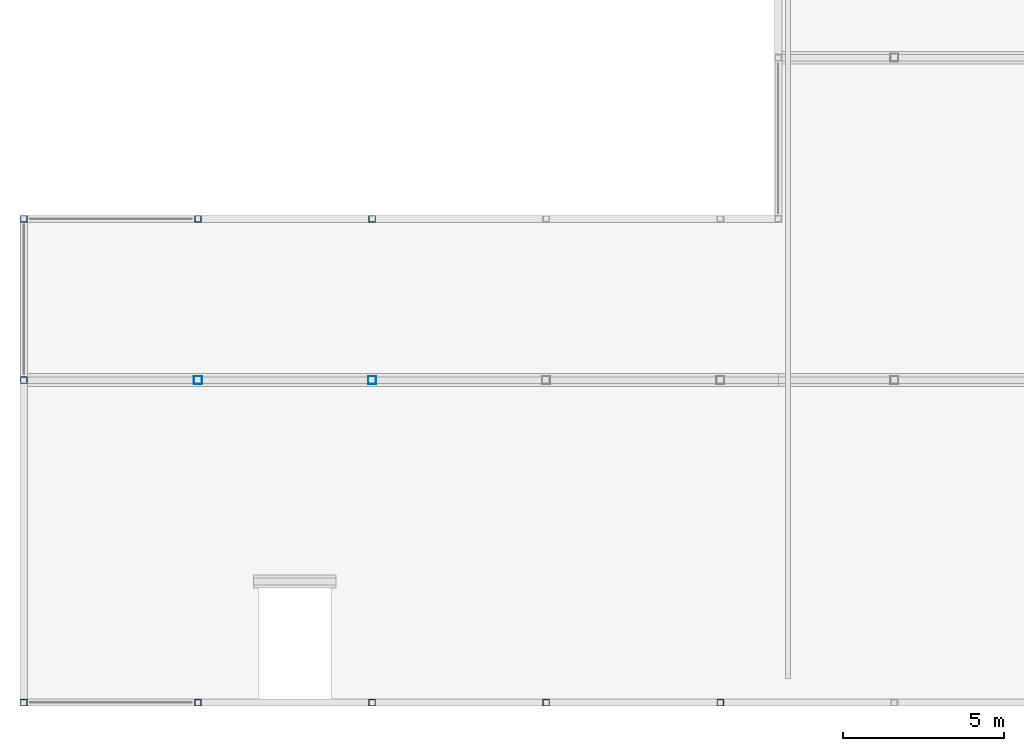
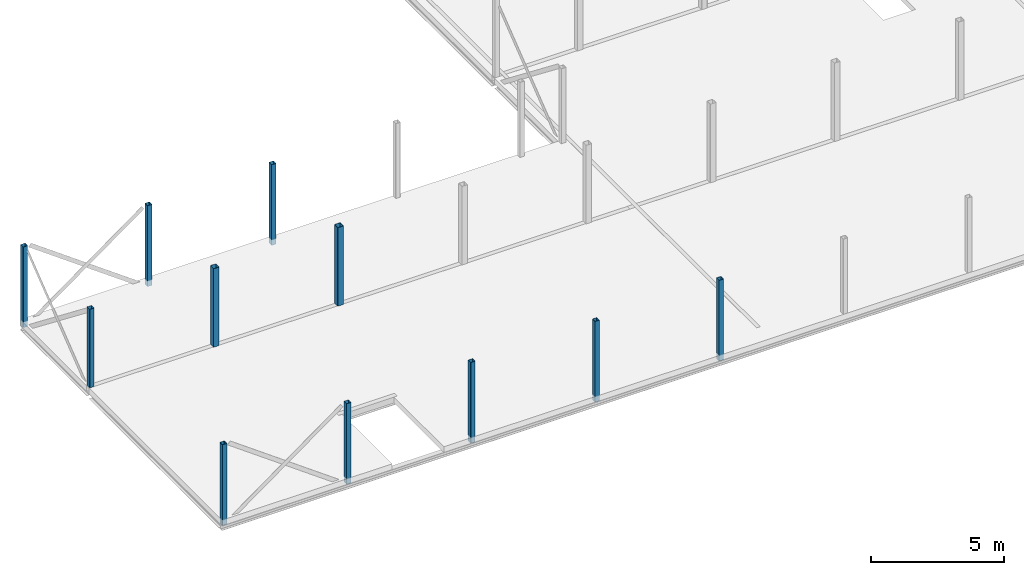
# One storey, part 1 of 7: 11 columns.
"""IFC2X3 building model written with IfcOpenShell, lengths in millimetres."""

from ifc_helpers import new_model, entity, si_unit, converted_unit, derived_unit, direction, frame, frame_2d, origin, place, context, subcontext, project, spatial, polyline, circle_curve, parameter, trimmed, segment, composite_curve, outline, extrude, source, transform, mapped, material, type_object, type_shapes, element, save


model = new_model("IFC2X3")

# Units and contexts
model_context = context("Model", 3, precision=0.01, world=origin(), true_north=direction((6.123031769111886e-17, 1.0)))
body_context = subcontext(model_context, "Body", "Model", "MODEL_VIEW")
ifc_project = project(units=[si_unit("LENGTHUNIT", "METRE", prefix="MILLI"), si_unit("AREAUNIT", "SQUARE_METRE"), si_unit("VOLUMEUNIT", "CUBIC_METRE"), converted_unit("PLANEANGLEUNIT", "DEGREE", entity("IfcPlaneAngleMeasure", 0.017453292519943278), si_unit("PLANEANGLEUNIT", "RADIAN"), dimensions=[0, 0, 0, 0, 0, 0, 0]), si_unit("MASSUNIT", "GRAM", prefix="KILO"), derived_unit("MASSDENSITYUNIT", [(si_unit("MASSUNIT", "GRAM", prefix="KILO"), 1), (si_unit("LENGTHUNIT", "METRE"), -3)]), derived_unit("IONCONCENTRATIONUNIT", [(si_unit("MASSUNIT", "GRAM", prefix="KILO"), 1), (si_unit("LENGTHUNIT", "METRE"), -3)]), derived_unit("MOMENTOFINERTIAUNIT", [(si_unit("LENGTHUNIT", "METRE"), 4)]), si_unit("TIMEUNIT", "SECOND"), si_unit("FREQUENCYUNIT", "HERTZ"), si_unit("THERMODYNAMICTEMPERATUREUNIT", "DEGREE_CELSIUS"), derived_unit("THERMALTRANSMITTANCEUNIT", [(si_unit("MASSUNIT", "GRAM", prefix="KILO"), 1), (si_unit("THERMODYNAMICTEMPERATUREUNIT", "KELVIN"), -1), (si_unit("TIMEUNIT", "SECOND"), -3)]), derived_unit("THERMALCONDUCTANCEUNIT", [(si_unit("MASSUNIT", "GRAM", prefix="KILO"), 1), (si_unit("THERMODYNAMICTEMPERATUREUNIT", "KELVIN"), -1), (si_unit("TIMEUNIT", "SECOND"), -3), (si_unit("LENGTHUNIT", "METRE"), 1)]), derived_unit("VOLUMETRICFLOWRATEUNIT", [(si_unit("LENGTHUNIT", "METRE", prefix="DECI"), 3), (si_unit("TIMEUNIT", "SECOND"), -1)]), derived_unit("MASSFLOWRATEUNIT", [(si_unit("MASSUNIT", "GRAM", prefix="KILO"), 1), (si_unit("TIMEUNIT", "SECOND"), -1)]), derived_unit("ROTATIONALFREQUENCYUNIT", [(si_unit("TIMEUNIT", "SECOND"), -1)]), si_unit("ELECTRICCURRENTUNIT", "AMPERE"), si_unit("ELECTRICVOLTAGEUNIT", "VOLT"), si_unit("POWERUNIT", "WATT"), si_unit("FORCEUNIT", "NEWTON", prefix="KILO"), si_unit("ILLUMINANCEUNIT", "LUX"), si_unit("LUMINOUSFLUXUNIT", "LUMEN"), si_unit("LUMINOUSINTENSITYUNIT", "CANDELA"), si_unit("ENERGYUNIT", "JOULE"), derived_unit("USERDEFINED", [(si_unit("MASSUNIT", "GRAM", prefix="KILO"), -1), (si_unit("LENGTHUNIT", "METRE"), -2), (si_unit("TIMEUNIT", "SECOND"), 3), (si_unit("LUMINOUSFLUXUNIT", "LUMEN"), 1)]), derived_unit("USERDEFINED", [(si_unit("MASSUNIT", "GRAM", prefix="KILO"), 1), (si_unit("TIMEUNIT", "SECOND"), -3), (si_unit("LENGTHUNIT", "METRE"), 3), (si_unit("ELECTRICCURRENTUNIT", "AMPERE"), -2)]), derived_unit("SOUNDPOWERUNIT", [(si_unit("MASSUNIT", "GRAM", prefix="KILO"), 1), (si_unit("TIMEUNIT", "SECOND"), -3), (si_unit("LENGTHUNIT", "METRE"), 2)]), derived_unit("SOUNDPRESSUREUNIT", [(si_unit("MASSUNIT", "GRAM", prefix="KILO"), 1), (si_unit("LENGTHUNIT", "METRE"), -1), (si_unit("TIMEUNIT", "SECOND"), -2)]), derived_unit("LINEARVELOCITYUNIT", [(si_unit("LENGTHUNIT", "METRE"), 1), (si_unit("TIMEUNIT", "SECOND"), -1)]), si_unit("PRESSUREUNIT", "PASCAL"), derived_unit("USERDEFINED", [(si_unit("MASSUNIT", "GRAM", prefix="KILO"), 1), (si_unit("LENGTHUNIT", "METRE"), -2), (si_unit("TIMEUNIT", "SECOND"), -2)]), derived_unit("LINEARFORCEUNIT", [(si_unit("MASSUNIT", "GRAM", prefix="KILO"), 1), (si_unit("TIMEUNIT", "SECOND"), -2)]), derived_unit("PLANARFORCEUNIT", [(si_unit("MASSUNIT", "GRAM", prefix="KILO"), 1), (si_unit("LENGTHUNIT", "METRE"), -1), (si_unit("TIMEUNIT", "SECOND"), -2)]), derived_unit("SPECIFICHEATCAPACITYUNIT", [(si_unit("THERMODYNAMICTEMPERATUREUNIT", "KELVIN"), -1), (si_unit("LENGTHUNIT", "METRE"), 2), (si_unit("TIMEUNIT", "SECOND"), -2)]), derived_unit("HEATFLUXDENSITYUNIT", [(si_unit("MASSUNIT", "GRAM", prefix="KILO"), 1), (si_unit("TIMEUNIT", "SECOND"), -3)]), derived_unit("HEATINGVALUEUNIT", [(si_unit("LENGTHUNIT", "METRE"), 2), (si_unit("TIMEUNIT", "SECOND"), -2)]), derived_unit("VAPORPERMEABILITYUNIT", [(si_unit("LENGTHUNIT", "METRE"), -1), (si_unit("TIMEUNIT", "SECOND"), 1)]), derived_unit("DYNAMICVISCOSITYUNIT", [(si_unit("MASSUNIT", "GRAM", prefix="KILO"), 1), (si_unit("TIMEUNIT", "SECOND"), -1), (si_unit("LENGTHUNIT", "METRE"), -1)]), derived_unit("THERMALEXPANSIONCOEFFICIENTUNIT", [(si_unit("THERMODYNAMICTEMPERATUREUNIT", "KELVIN"), -1)]), derived_unit("MODULUSOFELASTICITYUNIT", [(si_unit("MASSUNIT", "GRAM", prefix="KILO"), 1), (si_unit("LENGTHUNIT", "METRE"), -1), (si_unit("TIMEUNIT", "SECOND"), -2)]), derived_unit("ISOTHERMALMOISTURECAPACITYUNIT", [(si_unit("MASSUNIT", "GRAM", prefix="KILO"), -1), (si_unit("LENGTHUNIT", "METRE"), 3)]), derived_unit("MOISTUREDIFFUSIVITYUNIT", [(si_unit("TIMEUNIT", "SECOND"), -1), (si_unit("LENGTHUNIT", "METRE"), 2)]), derived_unit("MASSPERLENGTHUNIT", [(si_unit("MASSUNIT", "GRAM", prefix="KILO"), 1), (si_unit("LENGTHUNIT", "METRE"), -1)]), derived_unit("THERMALRESISTANCEUNIT", [(si_unit("MASSUNIT", "GRAM", prefix="KILO"), -1), (si_unit("TIMEUNIT", "SECOND"), 3), (si_unit("THERMODYNAMICTEMPERATUREUNIT", "KELVIN"), 1)]), derived_unit("ACCELERATIONUNIT", [(si_unit("LENGTHUNIT", "METRE"), 1), (si_unit("TIMEUNIT", "SECOND"), -2)]), derived_unit("ANGULARVELOCITYUNIT", [(si_unit("TIMEUNIT", "SECOND"), -1), (si_unit("PLANEANGLEUNIT", "RADIAN"), 1)]), derived_unit("LINEARSTIFFNESSUNIT", [(si_unit("MASSUNIT", "GRAM", prefix="KILO"), 1), (si_unit("TIMEUNIT", "SECOND"), -2)]), derived_unit("WARPINGCONSTANTUNIT", [(si_unit("LENGTHUNIT", "METRE"), 6)]), derived_unit("LINEARMOMENTUNIT", [(si_unit("MASSUNIT", "GRAM", prefix="KILO"), 1), (si_unit("LENGTHUNIT", "METRE"), 1), (si_unit("TIMEUNIT", "SECOND"), -2)]), derived_unit("TORQUEUNIT", [(si_unit("MASSUNIT", "GRAM", prefix="KILO"), 1), (si_unit("LENGTHUNIT", "METRE"), 2), (si_unit("TIMEUNIT", "SECOND"), -2)])], contexts=[model_context])

# Site, building, storey
site_placement = place(None, origin())
site = spatial("IfcSite", under=ifc_project, at=site_placement, Name="Default", CompositionType="ELEMENT")
building_placement = place(site_placement, origin())
building = spatial("IfcBuilding", under=site, at=building_placement, CompositionType="ELEMENT")
storey_placement = place(building_placement, frame((0.0, 0.0, 4000.0)))
storey = spatial("IfcBuildingStorey", under=building, at=storey_placement, Name="01 eerste verdieping", CompositionType="ELEMENT", Elevation=4000.0000000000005)

# Columns
ifc_material = material(Name="VRI_staal")
column_type_1 = type_object("IfcColumnType", Name="28_SC_VRI_kolom_staal_koker:K200x200x8", PredefinedType="COLUMN", material=ifc_material)
shared_shape_1 = source(origin(), body_context, "Body", "SweptSolid", [
    extrude(outline(composite_curve([segment(polyline([(-88.0, -100.0), (88.0, -100.0)]), True, "CONTINUOUS"), segment(trimmed(circle_curve(frame_2d((88.0, -88.0), x_axis=(0.0, -1.0)), 12.0), [parameter(359.9999999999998)], [parameter(89.99999999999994)], True, "PARAMETER"), True, "CONTINUOUS"), segment(polyline([(100.0, -88.0), (100.0, 88.0)]), True, "CONTINUOUS"), segment(trimmed(circle_curve(frame_2d((88.0, 88.0), x_axis=(0.0, -1.0)), 12.0), [parameter(90.00000000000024)], [parameter(180.0000000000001)], True, "PARAMETER"), True, "CONTINUOUS"), segment(polyline([(88.0, 100.0), (-88.0, 100.0)]), True, "CONTINUOUS"), segment(trimmed(circle_curve(frame_2d((-88.0, 88.0), x_axis=(0.0, -1.0)), 12.0), [parameter(179.99999999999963)], [parameter(269.9999999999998)], True, "PARAMETER"), True, "CONTINUOUS"), segment(polyline([(-100.0, 88.0), (-100.0, -88.0)]), True, "CONTINUOUS"), segment(trimmed(circle_curve(frame_2d((-88.0, -88.0), x_axis=(0.0, -1.0)), 12.0), [parameter(270.00000000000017)], [parameter(1.0177774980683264e-13)], True, "PARAMETER"), True, "CONTINUOUS")], self_intersect=False), holes=[composite_curve([segment(trimmed(circle_curve(frame_2d((-88.0, 88.0), x_axis=(0.0, -1.0)), 4.0), [parameter(180.0000000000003)], [parameter(270.0000000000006)], True, "PARAMETER"), False, "CONTINUOUS"), segment(polyline([(-88.0, 92.0), (88.0, 92.0)]), True, "CONTINUOUS"), segment(trimmed(circle_curve(frame_2d((88.0, 88.0), x_axis=(0.0, -1.0)), 4.0), [parameter(90.00000000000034)], [parameter(179.99999999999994)], True, "PARAMETER"), False, "CONTINUOUS"), segment(polyline([(92.0, 88.0), (92.0, -88.0)]), True, "CONTINUOUS"), segment(trimmed(circle_curve(frame_2d((88.0, -88.0), x_axis=(0.0, -1.0)), 4.0), [parameter(5.088887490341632e-13)], [parameter(90.00000000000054)], True, "PARAMETER"), False, "CONTINUOUS"), segment(polyline([(88.0, -92.0), (-88.0, -92.0)]), True, "CONTINUOUS"), segment(trimmed(circle_curve(frame_2d((-88.0, -88.0), x_axis=(0.0, -1.0)), 4.0), [parameter(269.9999999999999)], [parameter(0.0)], True, "PARAMETER"), False, "CONTINUOUS"), segment(polyline([(-92.0, -88.0), (-92.0, 88.0)]), True, "CONTINUOUS")], self_intersect=False)]), frame((-5.0, 0.0, 3655.0), z_axis=(0.0, 0.0, 1.0), x_axis=(0.0, 1.0, 0.0)), (0.0, 0.0, 1.0), 3709.9999999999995),
])
type_shapes(column_type_1, [shared_shape_1])
for number, where in (
    (1, (10005.0, 10000.0, -4000.0)),
    (2, (15405.0, 10000.0, -4000.0)),
    (3, (20805.0, 10000.0, -4000.0)),
    (4, (26205.0, 10000.0, -4000.0)),
    (5, (31605.0, 10000.0, -4000.0)),
    (6, (10005.0, 25000.0, -4000.0)),
    (7, (15405.0, 25000.0, -4000.0)),
    (8, (20805.0, 25000.0, -4000.0)),
):
    element("IfcColumn", number, at=place(storey_placement, frame(where)), inside=storey, type_object=column_type_1, material=ifc_material, Name="28_SC_VRI_kolom_staal_koker:K200x200x8", ObjectType="28_SC_VRI_kolom_staal_koker:K200x200x8", context=body_context, shape_type="MappedRepresentation", body=[
        mapped(shared_shape_1, transform((0.0, 0.0, 0.0), scale=1.0)),
    ])
column_type_2 = type_object("IfcColumnType", Name="28_SC_VRI_kolom_staal_koker:K250x250x8", PredefinedType="COLUMN", material=ifc_material)
shared_shape_2 = source(origin(), body_context, "Body", "SweptSolid", [
    extrude(outline(composite_curve([segment(polyline([(-113.0, -125.0), (113.0, -125.0)]), True, "CONTINUOUS"), segment(trimmed(circle_curve(frame_2d((113.0, -113.0), x_axis=(0.0, -1.0)), 12.0), [parameter(359.99999999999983)], [parameter(89.99999999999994)], True, "PARAMETER"), True, "CONTINUOUS"), segment(polyline([(125.0, -113.0), (125.0, 113.0)]), True, "CONTINUOUS"), segment(trimmed(circle_curve(frame_2d((113.0, 113.0), x_axis=(0.0, -1.0)), 12.0), [parameter(90.00000000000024)], [parameter(180.00000000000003)], True, "PARAMETER"), True, "CONTINUOUS"), segment(polyline([(113.0, 125.0), (-113.0, 125.0)]), True, "CONTINUOUS"), segment(trimmed(circle_curve(frame_2d((-113.0, 113.0), x_axis=(0.0, -1.0)), 12.0), [parameter(179.99999999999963)], [parameter(269.9999999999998)], True, "PARAMETER"), True, "CONTINUOUS"), segment(polyline([(-125.0, 113.0), (-125.0, -113.0)]), True, "CONTINUOUS"), segment(trimmed(circle_curve(frame_2d((-113.0, -113.0), x_axis=(0.0, -1.0)), 12.0), [parameter(270.00000000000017)], [parameter(1.0177774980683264e-13)], True, "PARAMETER"), True, "CONTINUOUS")], self_intersect=False), holes=[composite_curve([segment(trimmed(circle_curve(frame_2d((-113.0, 113.0), x_axis=(0.0, -1.0)), 4.0), [parameter(180.0000000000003)], [parameter(270.0000000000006)], True, "PARAMETER"), False, "CONTINUOUS"), segment(polyline([(-113.0, 117.0), (113.0, 117.0)]), True, "CONTINUOUS"), segment(trimmed(circle_curve(frame_2d((113.0, 113.0), x_axis=(0.0, -1.0)), 4.0), [parameter(90.00000000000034)], [parameter(179.9999999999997)], True, "PARAMETER"), False, "CONTINUOUS"), segment(polyline([(117.0, 113.0), (117.0, -113.0)]), True, "CONTINUOUS"), segment(trimmed(circle_curve(frame_2d((113.0, -113.0), x_axis=(0.0, -1.0)), 4.0), [parameter(5.088887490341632e-13)], [parameter(90.00000000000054)], True, "PARAMETER"), False, "CONTINUOUS"), segment(polyline([(113.0, -117.0), (-113.0, -117.0)]), True, "CONTINUOUS"), segment(trimmed(circle_curve(frame_2d((-113.0, -113.0), x_axis=(0.0, -1.0)), 4.0), [parameter(269.9999999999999)], [parameter(0.0)], True, "PARAMETER"), False, "CONTINUOUS"), segment(polyline([(-117.0, -113.0), (-117.0, 113.0)]), True, "CONTINUOUS")], self_intersect=False)]), frame((-5.0, 0.0, 3920.0), z_axis=(0.0, 0.0, 1.0), x_axis=(0.0, 1.0, 0.0)), (0.0, 0.0, 1.0), 3609.999999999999),
])
type_shapes(column_type_2, [shared_shape_2])
for number, where in (
    (9, (20805.0, 20000.0, -4000.0)),
    (10, (15405.0, 20000.0, -4000.0)),
):
    element("IfcColumn", number, at=place(storey_placement, frame(where)), inside=storey, type_object=column_type_2, material=ifc_material, Name="28_SC_VRI_kolom_staal_koker:K250x250x8", ObjectType="28_SC_VRI_kolom_staal_koker:K250x250x8", context=body_context, shape_type="MappedRepresentation", body=[
        mapped(shared_shape_2, transform((0.0, 0.0, 0.0), scale=1.0)),
    ])
column_type_3 = type_object("IfcColumnType", Name="28_SC_VRI_kolom_staal_koker:K200x200x8", PredefinedType="COLUMN", material=ifc_material)
shared_shape_3 = source(origin(), body_context, "Body", "SweptSolid", [
    extrude(outline(composite_curve([segment(polyline([(-88.0, -100.0), (88.0, -100.0)]), True, "CONTINUOUS"), segment(trimmed(circle_curve(frame_2d((88.0, -88.0), x_axis=(0.0, -1.0)), 12.0), [parameter(359.9999999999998)], [parameter(89.99999999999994)], True, "PARAMETER"), True, "CONTINUOUS"), segment(polyline([(100.0, -88.0), (100.0, 88.0)]), True, "CONTINUOUS"), segment(trimmed(circle_curve(frame_2d((88.0, 88.0), x_axis=(0.0, -1.0)), 12.0), [parameter(90.00000000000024)], [parameter(180.0000000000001)], True, "PARAMETER"), True, "CONTINUOUS"), segment(polyline([(88.0, 100.0), (-88.0, 100.0)]), True, "CONTINUOUS"), segment(trimmed(circle_curve(frame_2d((-88.0, 88.0), x_axis=(0.0, -1.0)), 12.0), [parameter(179.99999999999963)], [parameter(269.9999999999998)], True, "PARAMETER"), True, "CONTINUOUS"), segment(polyline([(-100.0, 88.0), (-100.0, -88.0)]), True, "CONTINUOUS"), segment(trimmed(circle_curve(frame_2d((-88.0, -88.0), x_axis=(0.0, -1.0)), 12.0), [parameter(270.00000000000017)], [parameter(1.0177774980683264e-13)], True, "PARAMETER"), True, "CONTINUOUS")], self_intersect=False), holes=[composite_curve([segment(trimmed(circle_curve(frame_2d((-88.0, 88.0), x_axis=(0.0, -1.0)), 4.0), [parameter(180.0000000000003)], [parameter(270.0000000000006)], True, "PARAMETER"), False, "CONTINUOUS"), segment(polyline([(-88.0, 92.0), (88.0, 92.0)]), True, "CONTINUOUS"), segment(trimmed(circle_curve(frame_2d((88.0, 88.0), x_axis=(0.0, -1.0)), 4.0), [parameter(90.00000000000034)], [parameter(179.99999999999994)], True, "PARAMETER"), False, "CONTINUOUS"), segment(polyline([(92.0, 88.0), (92.0, -88.0)]), True, "CONTINUOUS"), segment(trimmed(circle_curve(frame_2d((88.0, -88.0), x_axis=(0.0, -1.0)), 4.0), [parameter(5.088887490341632e-13)], [parameter(90.00000000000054)], True, "PARAMETER"), False, "CONTINUOUS"), segment(polyline([(88.0, -92.0), (-88.0, -92.0)]), True, "CONTINUOUS"), segment(trimmed(circle_curve(frame_2d((-88.0, -88.0), x_axis=(0.0, -1.0)), 4.0), [parameter(269.9999999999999)], [parameter(0.0)], True, "PARAMETER"), False, "CONTINUOUS"), segment(polyline([(-92.0, -88.0), (-92.0, 88.0)]), True, "CONTINUOUS")], self_intersect=False)]), frame((-5.0, 0.0, 3920.0), z_axis=(0.0, 0.0, 1.0), x_axis=(0.0, 1.0, 0.0)), (0.0, 0.0, 1.0), 3609.999999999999),
])
type_shapes(column_type_3, [shared_shape_3])
column_placement = place(storey_placement, frame((10005.0, 20000.0, -4000.0)))
element("IfcColumn", 11, at=column_placement, inside=storey, type_object=column_type_3, material=ifc_material, Name="28_SC_VRI_kolom_staal_koker:K200x200x8", ObjectType="28_SC_VRI_kolom_staal_koker:K200x200x8", context=body_context, shape_type="MappedRepresentation", body=[
    mapped(shared_shape_3, transform((0.0, 0.0, 0.0), scale=1.0)),
])

save(model, "model.ifc")
